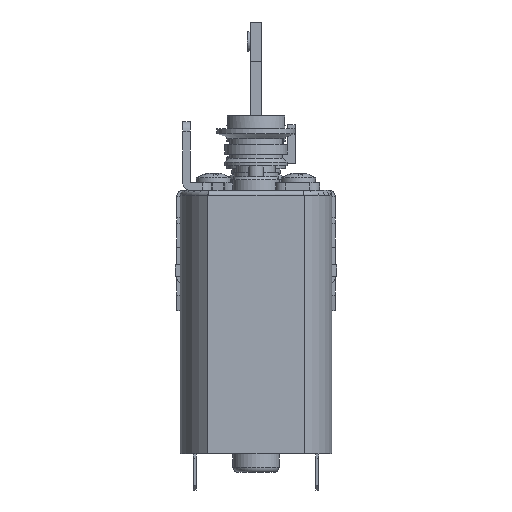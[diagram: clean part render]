
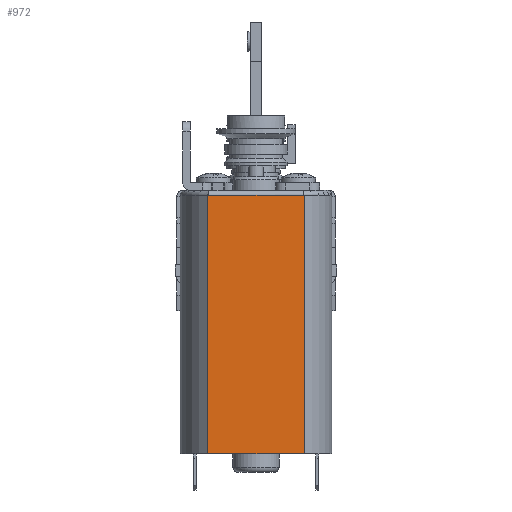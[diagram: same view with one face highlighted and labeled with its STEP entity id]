
A CAD part, left-side view. The second image highlights one B-rep face of the part: STEP entity #972.
In plain terms, the highlighted planar face has unit normal (-1, 0, 0).
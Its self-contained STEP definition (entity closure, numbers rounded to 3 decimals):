
#543 = VERTEX_POINT('',#544);
#544 = CARTESIAN_POINT('',(-60.5,-4.905,-8.1));
#567 = EDGE_CURVE('',#543,#568,#570,.T.);
#568 = VERTEX_POINT('',#569);
#569 = CARTESIAN_POINT('',(-60.5,4.905,-8.1));
#570 = LINE('',#571,#572);
#571 = CARTESIAN_POINT('',(-60.5,-4.905,-8.1));
#572 = VECTOR('',#573,1.);
#573 = DIRECTION('',(0.,1.,0.));
#972 = ADVANCED_FACE('',(#973),#998,.F.);
#973 = FACE_BOUND('',#974,.F.);
#974 = EDGE_LOOP('',(#975,#983,#984,#992));
#975 = ORIENTED_EDGE('',*,*,#976,.T.);
#976 = EDGE_CURVE('',#977,#568,#979,.T.);
#977 = VERTEX_POINT('',#978);
#978 = CARTESIAN_POINT('',(-60.5,4.905,-34.5));
#979 = LINE('',#980,#981);
#980 = CARTESIAN_POINT('',(-60.5,4.905,-7.6));
#981 = VECTOR('',#982,1.);
#982 = DIRECTION('',(0.,0.,1.));
#983 = ORIENTED_EDGE('',*,*,#567,.F.);
#984 = ORIENTED_EDGE('',*,*,#985,.F.);
#985 = EDGE_CURVE('',#986,#543,#988,.T.);
#986 = VERTEX_POINT('',#987);
#987 = CARTESIAN_POINT('',(-60.5,-4.905,-34.5));
#988 = LINE('',#989,#990);
#989 = CARTESIAN_POINT('',(-60.5,-4.905,-7.6));
#990 = VECTOR('',#991,1.);
#991 = DIRECTION('',(0.,0.,1.));
#992 = ORIENTED_EDGE('',*,*,#993,.T.);
#993 = EDGE_CURVE('',#986,#977,#994,.T.);
#994 = LINE('',#995,#996);
#995 = CARTESIAN_POINT('',(-60.5,6.,-34.5));
#996 = VECTOR('',#997,1.);
#997 = DIRECTION('',(0.,1.,0.));
#998 = PLANE('',#999);
#999 = AXIS2_PLACEMENT_3D('',#1000,#1001,#1002);
#1000 = CARTESIAN_POINT('',(-60.5,12.,-40.6));
#1001 = DIRECTION('',(1.,0.,0.));
#1002 = DIRECTION('',(0.,0.,1.));
